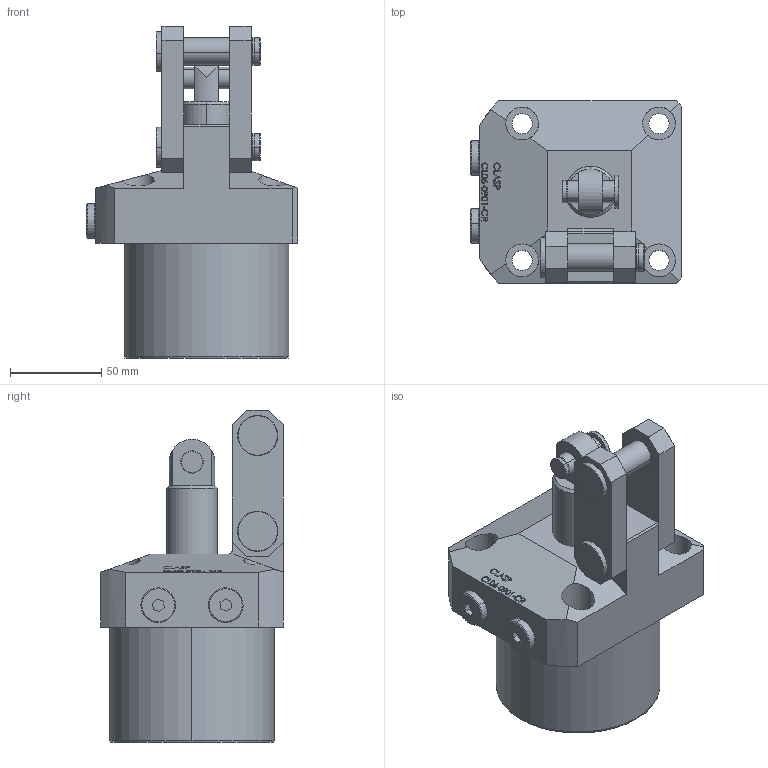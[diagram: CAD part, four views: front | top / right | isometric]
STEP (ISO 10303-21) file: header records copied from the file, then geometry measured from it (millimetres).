
FILE_DESCRIPTION (( 'STEP AP203' ), '1' );
FILE_NAME ('CL06-0901 cr.STEP', '2022-07-05T17:43:09', ( '' ), ( '' ), 'SwSTEP 2.0', 'SolidWorks 2017', '' );
FILE_SCHEMA (( 'CONFIG_CONTROL_DESIGN' ));
Length unit declared in the file: millimetre
Products named in the file (7): CL06-0901 Part2 cr; CL06-0901 Part5 cr; CL06-0901 Part6 cr; CL06-0901 Part7 cr; CL06-0901 Part1 cr; CL06-0901 cr; CL06-0901 Part3 cr
Assembly tree (9 placements, depth 2):
  CL06-0901 cr
    CL06-0901 Part1 cr
    CL06-0901 Part3 cr
    CL06-0901 Part2 cr  x2
    CL06-0901 Part5 cr  x2
    CL06-0901 Part6 cr  x2
    CL06-0901 Part7 cr
Bounding box: 116 x 100 x 182 mm (x, y, z)
Volume: 890705.3 mm3; surface area: 97429.6 mm2
Topology: 9 solids, 9 shells, 409 faces, 995 edges, 644 vertices
Faces by surface type: plane 182, bspline 98, cylinder 81, cone 48
Entity records: 17288 total; most frequent: CARTESIAN_POINT 8624, ORIENTED_EDGE 1750, DIRECTION 1343, EDGE_CURVE 875, VERTEX_POINT 572, LINE 505, VECTOR 505, AXIS2_PLACEMENT_3D 419
